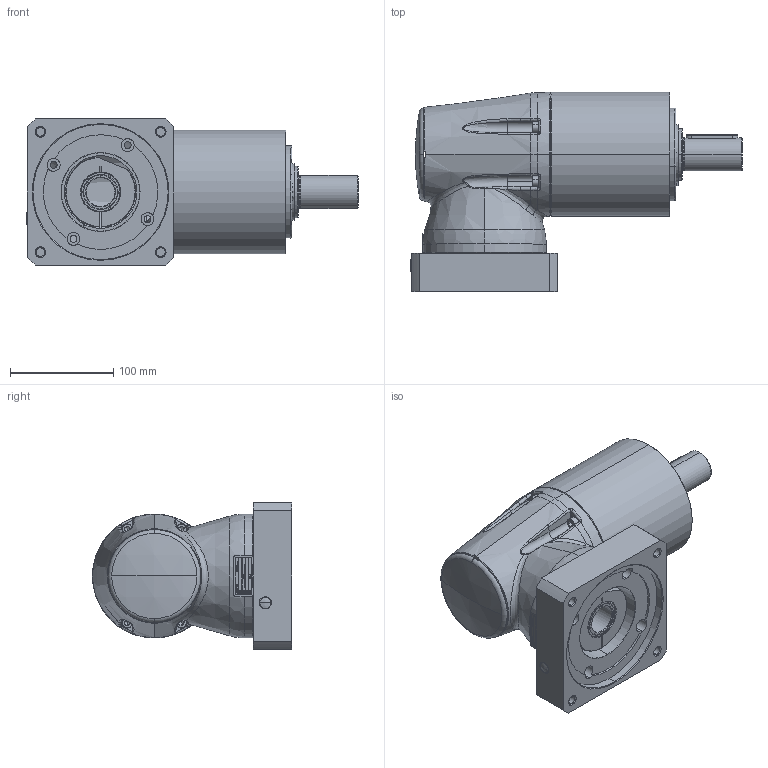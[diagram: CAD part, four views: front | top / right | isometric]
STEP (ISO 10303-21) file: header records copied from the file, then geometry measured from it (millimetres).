
FILE_DESCRIPTION (( 'STEP AP214' ), '1' );
FILE_NAME ('RL-030-RRR-FFF-MMM-S-LL-XXX-BXX-0000.STEP', '2019-10-30T15:07:34', ( '' ), ( '' ), 'SwSTEP 2.0', 'SolidWorks 2019', '' );
FILE_SCHEMA (( 'AUTOMOTIVE_DESIGN' ));
Length unit declared in the file: millimetre
Products named in the file (1): RL-030-RRR-FFF-MMM-S-LL-XXX-BXX-0000
Bounding box: 321.77 x 193 x 142 mm (x, y, z)
Surface area: 224791.6 mm2 (no closed solid volume)
Topology: 0 solids, 55 shells, 425 faces, 2126 edges, 1735 vertices
Faces by surface type: plane 130, cylinder 116, cone 72, bspline 55, torus 48, sphere 4
Entity records: 34343 total; most frequent: CARTESIAN_POINT 14357, ORIENTED_EDGE 2908, DIRECTION 2670, EDGE_CURVE 2118, VERTEX_POINT 1735, LINE 918, VECTOR 918, AXIS2_PLACEMENT_3D 876
